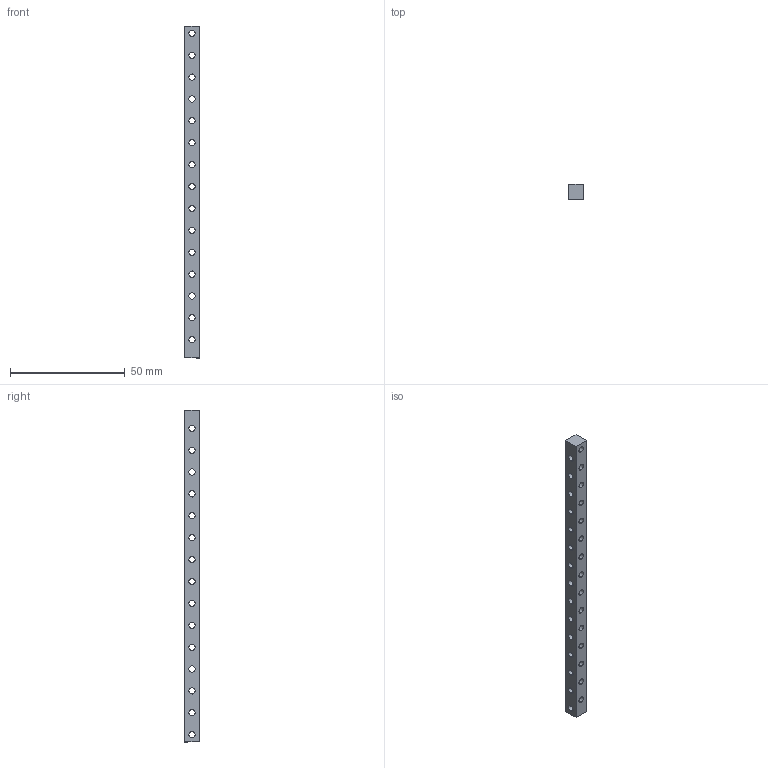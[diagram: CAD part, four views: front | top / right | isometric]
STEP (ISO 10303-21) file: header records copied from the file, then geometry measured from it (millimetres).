
FILE_DESCRIPTION (( 'STEP AP214' ), '1' );
FILE_NAME ('0.250in Mini NutStrip 15x15 R1.STEP', '2019-10-02T22:08:42', ( 'Kurtis' ), ( '' ), 'SwSTEP 2.0', 'SolidWorks 2015', '' );
FILE_SCHEMA (( 'AUTOMOTIVE_DESIGN' ));
Length unit declared in the file: inch
Products named in the file (1): 0.250in Mini NutStrip 15x15 R1
Bounding box: 6.35 x 6.35 x 144.46 mm (x, y, z)
Volume: 4730.2 mm3; surface area: 5024.1 mm2
Topology: 1 solids, 1 shells, 66 faces, 192 edges, 128 vertices
Faces by surface type: cylinder 60, plane 6
Entity records: 2468 total; most frequent: DIRECTION 446, CARTESIAN_POINT 387, ORIENTED_EDGE 384, EDGE_CURVE 192, AXIS2_PLACEMENT_3D 187, VERTEX_POINT 128, EDGE_LOOP 126, CIRCLE 120
